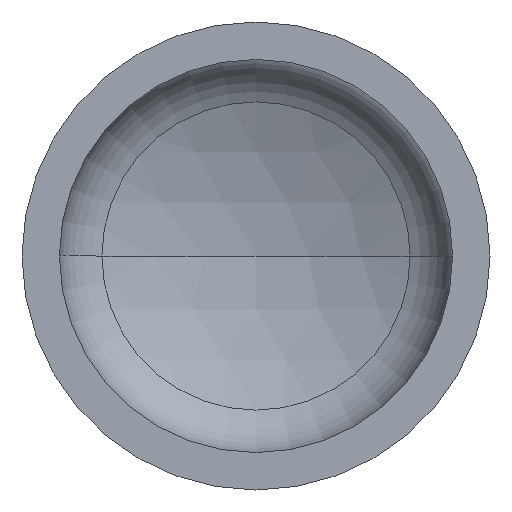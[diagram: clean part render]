
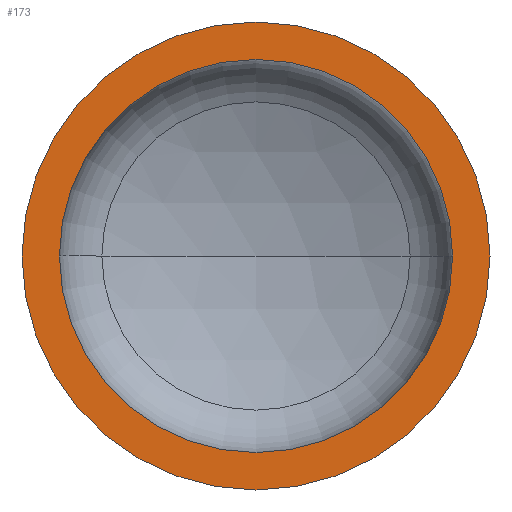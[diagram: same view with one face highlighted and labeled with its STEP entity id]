
A CAD part, front view. The second image highlights one B-rep face of the part: STEP entity #173.
In plain terms, the highlighted planar face has unit normal (0, -1, 0).
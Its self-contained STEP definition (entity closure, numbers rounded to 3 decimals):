
#4 = AXIS2_PLACEMENT_3D ( 'NONE', #166, #334, #338 ) ;
#8 = VERTEX_POINT ( 'NONE', #278 ) ;
#12 = CIRCLE ( 'NONE', #136, 600. ) ;
#32 = ORIENTED_EDGE ( 'NONE', *, *, #378, .T. ) ;
#40 = EDGE_LOOP ( 'NONE', ( #89, #79 ) ) ;
#41 = VERTEX_POINT ( 'NONE', #251 ) ;
#49 = AXIS2_PLACEMENT_3D ( 'NONE', #326, #328, #235 ) ;
#79 = ORIENTED_EDGE ( 'NONE', *, *, #358, .F. ) ;
#86 = VERTEX_POINT ( 'NONE', #241 ) ;
#89 = ORIENTED_EDGE ( 'NONE', *, *, #172, .F. ) ;
#91 = VERTEX_POINT ( 'NONE', #245 ) ;
#102 = ORIENTED_EDGE ( 'NONE', *, *, #169, .T. ) ;
#128 = AXIS2_PLACEMENT_3D ( 'NONE', #293, #204, #298 ) ;
#135 = AXIS2_PLACEMENT_3D ( 'NONE', #292, #184, #203 ) ;
#136 = AXIS2_PLACEMENT_3D ( 'NONE', #310, #307, #304 ) ;
#160 = FACE_OUTER_BOUND ( 'NONE', #263, .T. ) ;
#166 = CARTESIAN_POINT ( 'NONE',  ( 0., 0., 0. ) ) ;
#169 = EDGE_CURVE ( 'NONE', #8, #91, #12, .T. ) ;
#172 = EDGE_CURVE ( 'NONE', #41, #86, #295, .T. ) ;
#173 = ADVANCED_FACE ( 'NONE', ( #232, #160 ), #302, .F. ) ;
#184 = DIRECTION ( 'NONE',  ( 0., -1., 0. ) ) ;
#189 = CIRCLE ( 'NONE', #4, 600. ) ;
#203 = DIRECTION ( 'NONE',  ( 1., 0., 0. ) ) ;
#204 = DIRECTION ( 'NONE',  ( 0., 1., 0. ) ) ;
#232 = FACE_BOUND ( 'NONE', #40, .T. ) ;
#235 = DIRECTION ( 'NONE',  ( 1., 0., 0. ) ) ;
#241 = CARTESIAN_POINT ( 'NONE',  ( -504., 0., 0. ) ) ;
#245 = CARTESIAN_POINT ( 'NONE',  ( 600., 0., 0. ) ) ;
#251 = CARTESIAN_POINT ( 'NONE',  ( 504., 0., 0. ) ) ;
#263 = EDGE_LOOP ( 'NONE', ( #32, #102 ) ) ;
#278 = CARTESIAN_POINT ( 'NONE',  ( -600., 0., 0. ) ) ;
#292 = CARTESIAN_POINT ( 'NONE',  ( 0., 0., 0. ) ) ;
#293 = CARTESIAN_POINT ( 'NONE',  ( -600., 0., 0. ) ) ;
#295 = CIRCLE ( 'NONE', #135, 504. ) ;
#298 = DIRECTION ( 'NONE',  ( -1., 0., 0. ) ) ;
#302 = PLANE ( 'NONE',  #128 ) ;
#304 = DIRECTION ( 'NONE',  ( 1., 0., 0. ) ) ;
#307 = DIRECTION ( 'NONE',  ( 0., -1., 0. ) ) ;
#310 = CARTESIAN_POINT ( 'NONE',  ( 0., 0., 0. ) ) ;
#326 = CARTESIAN_POINT ( 'NONE',  ( 0., 0., 0. ) ) ;
#328 = DIRECTION ( 'NONE',  ( 0., -1., 0. ) ) ;
#334 = DIRECTION ( 'NONE',  ( 0., -1., 0. ) ) ;
#338 = DIRECTION ( 'NONE',  ( 1., 0., 0. ) ) ;
#358 = EDGE_CURVE ( 'NONE', #86, #41, #381, .T. ) ;
#378 = EDGE_CURVE ( 'NONE', #91, #8, #189, .T. ) ;
#381 = CIRCLE ( 'NONE', #49, 504. ) ;
